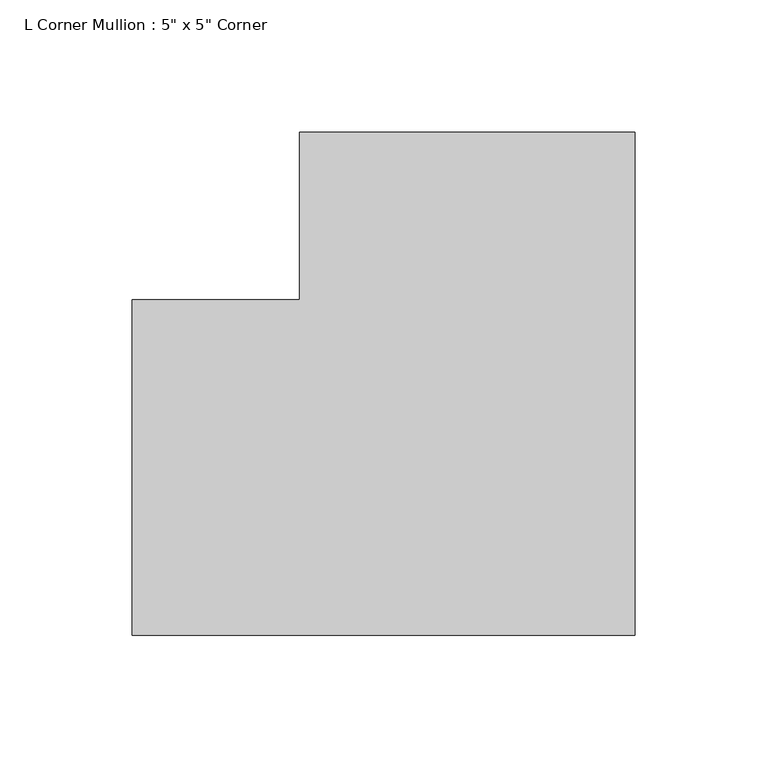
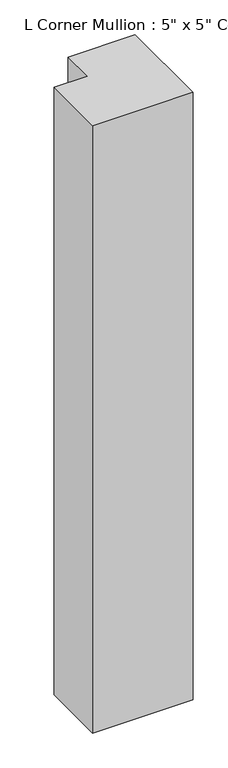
"""IFC4 building model written with IfcOpenShell, lengths in millimetres: member geometry."""

from ifc_helpers import new_model, si_unit, frame, origin, place, context, project, spatial, polyline, outline, extrude, source, transform, mapped, element, save


def member_863be36e(model_context):
    return source(origin(), model_context, "Body", "SweptSolid", [
        extrude(outline(polyline([(63.5, 127.0), (63.5, -63.5), (-127.0, -63.5), (-127.0, 63.5), (-63.5, 63.5), (-63.5, 127.0), (63.5, 127.0)])), frame((0.0, 0.0, -1219.2), z_axis=(0.0, 0.0, 1.0), x_axis=(1.0, 0.0, 0.0)), (0.0, 0.0, 1.0), 1219.2),
    ])


if __name__ == "__main__":
    model = new_model("IFC4")
    model_context = context("Model", 3, world=origin())
    ifc_project = project(units=[si_unit("LENGTHUNIT", "METRE", prefix="MILLI")], contexts=[model_context])
    site = spatial("IfcSite", under=ifc_project)
    building = spatial("IfcBuilding", under=site)
    placement = place(None, origin())
    member_shape = member_863be36e(model_context)
    element("IfcMember", 1, ObjectType="L Corner Mullion : 5\" x 5\" Corner", at=placement, inside=building, context=model_context, shape_type="MappedRepresentation", body=[
        mapped(member_shape, transform((0.0, 0.0, 0.0), x_axis=(1.0, 0.0, 0.0), y_axis=(0.0, 1.0, 0.0), z_axis=(0.0, 0.0, 1.0))),
    ])
    save(model, "model.ifc")
